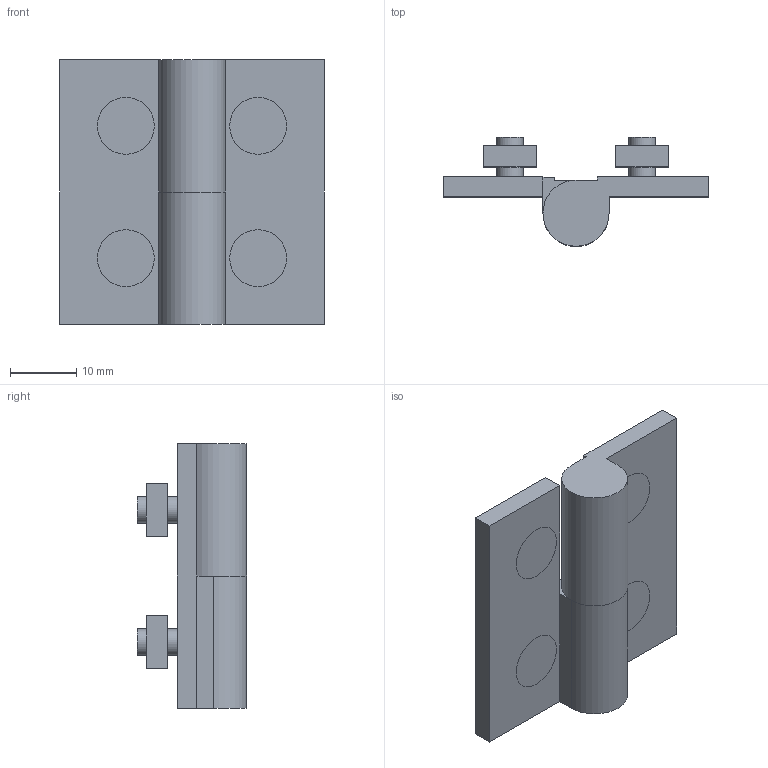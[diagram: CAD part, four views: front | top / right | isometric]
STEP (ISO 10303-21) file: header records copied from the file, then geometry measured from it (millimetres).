
FILE_DESCRIPTION((''),'2;1');
FILE_NAME('C:\Documents and Settings\古川典政\My Documents\Inventor\HP用\MasterData\ACCESSORY\M4\AHS-4040-4-L.stp','2008-08-05T11:43:44',(''),(''),'Autodesk Inventor 2008','Autodesk Inventor 2008','');
FILE_SCHEMA(('CONFIG_CONTROL_DESIGN'));
Length unit declared in the file: millimetre
Products named in the file (11): AHS-4040-4-L; AHS-4040-4-L1; AHS-4040-4-L2; AHS-4040-4-L3; AHS-4040-4-L4; AHS-4040-4-L5; AHS-4040-4-L6; AHS-4040-4-L7; AHS-4040-4-L8; AHS-4040-4-L9; AHS-4040-4-L10
Assembly tree (10 placements, depth 2):
  AHS-4040-4-L
    AHS-4040-4-L1
    AHS-4040-4-L2
    AHS-4040-4-L3
    AHS-4040-4-L4
    AHS-4040-4-L5
    AHS-4040-4-L6
    AHS-4040-4-L7
    AHS-4040-4-L8
    AHS-4040-4-L9
    AHS-4040-4-L10
Bounding box: 40 x 16.5 x 40 mm (x, y, z)
Volume: 7941.1 mm3; surface area: 6396.8 mm2
Topology: 10 solids, 10 shells, 74 faces, 160 edges, 106 vertices
Faces by surface type: plane 52, bspline 12, cylinder 6, cone 4
Full cylindrical faces by diameter (mm): 4 x4
Entity records: 2324 total; most frequent: CARTESIAN_POINT 529, DIRECTION 334, ORIENTED_EDGE 264, EDGE_CURVE 132, AXIS2_PLACEMENT_3D 119, EDGE_LOOP 110, VERTEX_POINT 98, VECTOR 96
